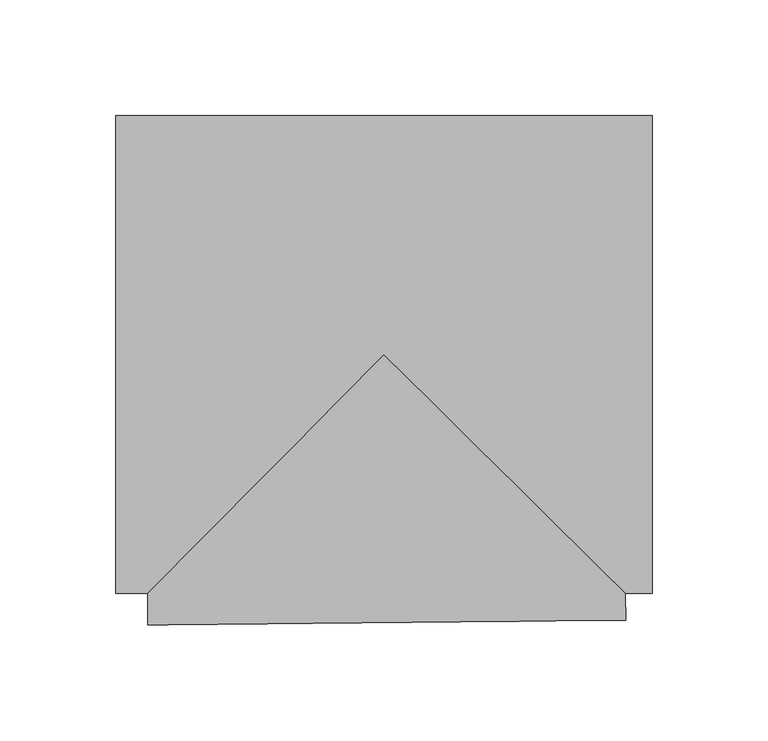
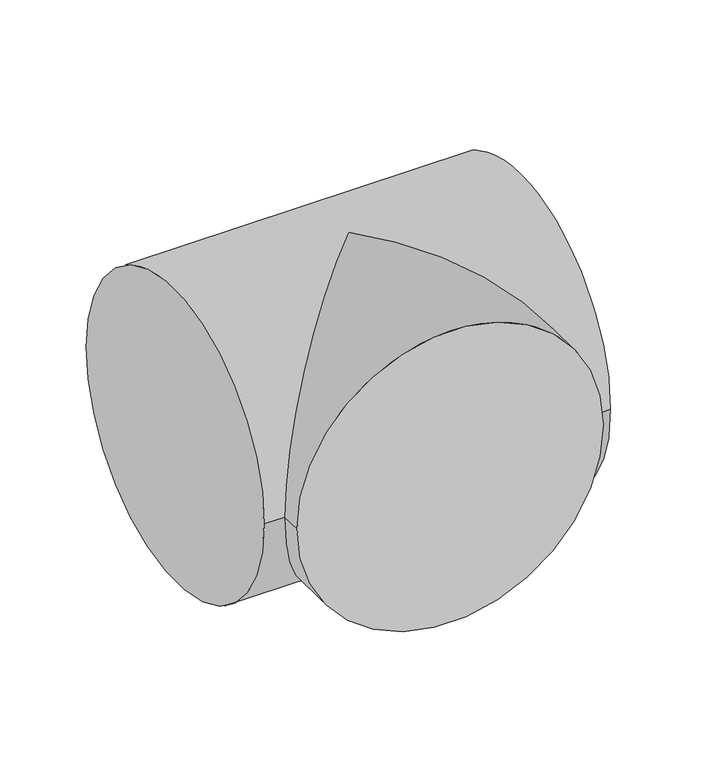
"""IFC4 building model written with IfcOpenShell, lengths in millimetres: pipe fitting geometry, M_Te - Genérica : Estándar."""

from ifc_helpers import new_model, si_unit, frame, origin, place, context, project, spatial, circle_curve, ellipse_curve, source, transform, mapped, element, save
from ifc_brep_helpers import plane_surface, cylinder_surface, advanced_brep


def pipe_fitting_a304570c(model_context):
    return source(origin(), model_context, "Body", "AdvancedBrep", [
        advanced_brep(
        [(-115.8875, -103.1875, 0.0), (-115.8875, 103.1875, 0.0), (115.8875, -103.1875, 0.0), (115.8875, 103.1875, 0.0), (-102.1607842, -103.1875, 0.0), (0.0, 0.0, 103.1875), (104.2245342, -103.1875, 0.0), (0.0, 0.0, -103.1875), (-102.023524, -116.9135295, 0.0), (104.3411581, -114.8498826, 0.0)],
        [
            (0, 1, circle_curve(frame((-115.8875, 0.0, 0.0), z_axis=(-1.0, 0.0, 0.0), x_axis=(0.0, 1.0, 0.0)), 103.1875)),
            (1, 0, circle_curve(frame((-115.8875, 0.0, 0.0), z_axis=(-1.0, 0.0, 0.0), x_axis=(0.0, 1.0, 0.0)), 103.1875)),
            (2, 3, circle_curve(frame((115.8875, 0.0, 0.0), z_axis=(1.0, 0.0, 0.0), x_axis=(0.0, 1.0, 0.0)), 103.1875)),
            (3, 2, circle_curve(frame((115.8875, 0.0, 0.0), z_axis=(1.0, 0.0, 0.0), x_axis=(0.0, 1.0, 0.0)), 103.1875)),
            (0, 4),
            (4, 5, ellipse_curve(frame((0.0, 0.0, 0.0), z_axis=(-0.7106333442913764, 0.7035625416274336, 0.0), x_axis=(-0.7035625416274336, -0.7106333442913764, 0.0)), 145.2049792, 103.1875)),
            (5, 6, ellipse_curve(frame((0.0, 0.0, 0.0), z_axis=(0.7035625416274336, 0.7106333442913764, 0.0), x_axis=(-0.7106333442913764, 0.7035625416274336, 0.0)), 146.6642891, 103.1875)),
            (6, 2),
            (3, 1),
            (6, 7, ellipse_curve(frame((0.0, 0.0, 0.0), z_axis=(0.7035625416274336, 0.7106333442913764, 0.0), x_axis=(-0.7106333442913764, 0.7035625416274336, 0.0)), 146.6642891, 103.1875)),
            (7, 4, ellipse_curve(frame((0.0, 0.0, 0.0), z_axis=(-0.7106333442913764, 0.7035625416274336, 0.0), x_axis=(-0.7035625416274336, -0.7106333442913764, 0.0)), 145.2049792, 103.1875)),
            (8, 9, circle_curve(frame((1.1588171, -115.8817061, 0.0), z_axis=(0.009999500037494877, -0.9999500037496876, 0.0), x_axis=(0.9999500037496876, 0.009999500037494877, 0.0)), 103.1875)),
            (9, 8, circle_curve(frame((1.1588171, -115.8817061, 0.0), z_axis=(0.009999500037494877, -0.9999500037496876, 0.0), x_axis=(0.9999500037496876, 0.009999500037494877, 0.0)), 103.1875)),
            (9, 6),
            (4, 8),
        ],
        [
            plane_surface(frame((-115.8875, 0.0, 0.0), z_axis=(-1.0, 0.0, 0.0), x_axis=(0.0, 0.0, 1.0))),
            plane_surface(frame((115.8875, 0.0, 0.0), z_axis=(1.0, 0.0, 0.0), x_axis=(0.0, 0.0, 1.0))),
            cylinder_surface(frame((-115.8875, 0.0, 0.0), z_axis=(-1.0, 0.0, 0.0), x_axis=(0.0, 1.0, 0.0)), 103.1875),
            plane_surface(frame((1.1588171, -115.8817061, 0.0), z_axis=(0.009999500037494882, -0.9999500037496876, 0.0), x_axis=(0.0, 0.0, 1.0))),
            cylinder_surface(frame((0.0, 0.0, 0.0), z_axis=(-0.009999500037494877, 0.9999500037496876, 0.0), x_axis=(0.9999500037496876, 0.009999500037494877, 0.0)), 103.1875),
        ],
        [
            (0, [[1, 2]]),
            (1, [[3, 4]]),
            (2, [[-1, 5, 6, 7, 8, -4, 9]]),
            (2, [[-2, -9, -3, -8, 10, 11, -5]]),
            (3, [[12, 13]]),
            (4, [[-13, 14, -7, -6, 15]]),
            (4, [[-12, -15, -11, -10, -14]]),
        ],
    ),
    ])


if __name__ == "__main__":
    model = new_model("IFC4")
    model_context = context("Model", 3, world=origin())
    ifc_project = project(units=[si_unit("LENGTHUNIT", "METRE", prefix="MILLI")], contexts=[model_context])
    site = spatial("IfcSite", under=ifc_project)
    building = spatial("IfcBuilding", under=site)
    placement = place(None, origin())
    pipe_fitting_shape = pipe_fitting_a304570c(model_context)
    element("IfcPipeFitting", 1, ObjectType="M_Te - Genérica : Estándar", at=placement, inside=building, context=model_context, shape_type="MappedRepresentation", body=[
        mapped(pipe_fitting_shape, transform((0.0, 0.0, 0.0), x_axis=(1.0, 0.0, 0.0), y_axis=(0.0, 1.0, 0.0), z_axis=(0.0, 0.0, 1.0))),
    ])
    save(model, "model.ifc")
